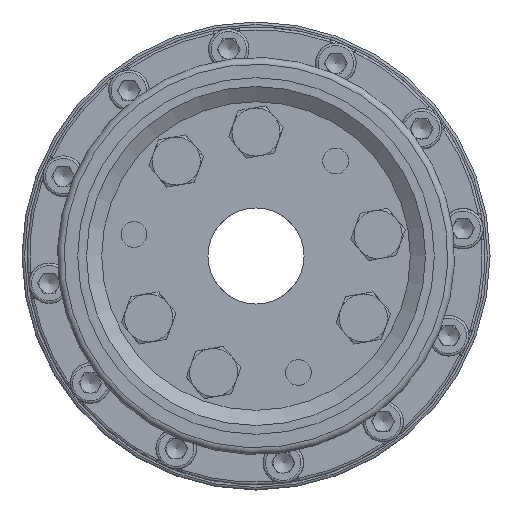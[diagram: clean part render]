
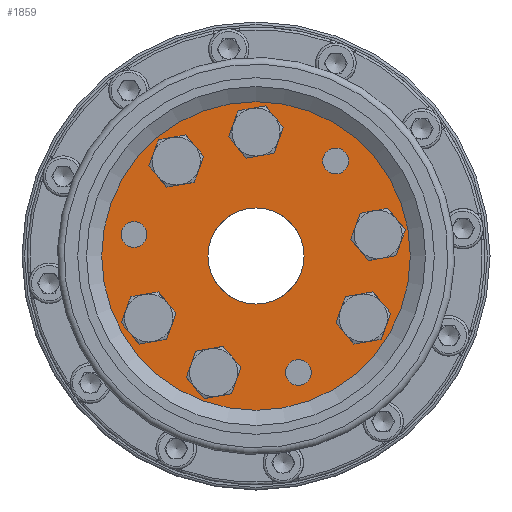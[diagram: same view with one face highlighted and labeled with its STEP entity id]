
A CAD part, left-side view. The second image highlights one B-rep face of the part: STEP entity #1859.
In plain terms, the highlighted planar face has unit normal (-1, 0, 0).
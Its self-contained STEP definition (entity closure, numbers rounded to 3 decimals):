
#1859 = ADVANCED_FACE( '', ( #4296, #4297, #4298, #4299, #4300, #4301, #4302, #4303, #4304, #4305, #4306 ), #4307, .T. );
#4296 = FACE_BOUND( '', #7447, .T. );
#4297 = FACE_BOUND( '', #7448, .T. );
#4298 = FACE_BOUND( '', #7449, .T. );
#4299 = FACE_BOUND( '', #7450, .T. );
#4300 = FACE_BOUND( '', #7451, .T. );
#4301 = FACE_BOUND( '', #7452, .T. );
#4302 = FACE_OUTER_BOUND( '', #7453, .T. );
#4303 = FACE_BOUND( '', #7454, .T. );
#4304 = FACE_BOUND( '', #7455, .T. );
#4305 = FACE_BOUND( '', #7456, .T. );
#4306 = FACE_BOUND( '', #7457, .T. );
#4307 = PLANE( '', #7458 );
#7447 = EDGE_LOOP( '', ( #13031 ) );
#7448 = EDGE_LOOP( '', ( #13032 ) );
#7449 = EDGE_LOOP( '', ( #13033 ) );
#7450 = EDGE_LOOP( '', ( #13034 ) );
#7451 = EDGE_LOOP( '', ( #13035 ) );
#7452 = EDGE_LOOP( '', ( #13036 ) );
#7453 = EDGE_LOOP( '', ( #13037 ) );
#7454 = EDGE_LOOP( '', ( #13038 ) );
#7455 = EDGE_LOOP( '', ( #13039 ) );
#7456 = EDGE_LOOP( '', ( #13040 ) );
#7457 = EDGE_LOOP( '', ( #13041 ) );
#7458 = AXIS2_PLACEMENT_3D( '', #13042, #13043, #13044 );
#13031 = ORIENTED_EDGE( '', *, *, #17742, .T. );
#13032 = ORIENTED_EDGE( '', *, *, #18192, .T. );
#13033 = ORIENTED_EDGE( '', *, *, #18349, .T. );
#13034 = ORIENTED_EDGE( '', *, *, #18070, .T. );
#13035 = ORIENTED_EDGE( '', *, *, #17421, .T. );
#13036 = ORIENTED_EDGE( '', *, *, #17725, .T. );
#13037 = ORIENTED_EDGE( '', *, *, #17625, .T. );
#13038 = ORIENTED_EDGE( '', *, *, #18350, .T. );
#13039 = ORIENTED_EDGE( '', *, *, #18351, .T. );
#13040 = ORIENTED_EDGE( '', *, *, #18352, .T. );
#13041 = ORIENTED_EDGE( '', *, *, #18278, .F. );
#13042 = CARTESIAN_POINT( '', ( -81.093, 12.213, 14.555 ) );
#13043 = DIRECTION( '', ( -1., 0., 0. ) );
#13044 = DIRECTION( '', ( 0., 0.643, 0.766 ) );
#17421 = EDGE_CURVE( '', #21081, #21081, #21082, .F. );
#17625 = EDGE_CURVE( '', #21394, #21394, #21395, .T. );
#17725 = EDGE_CURVE( '', #21539, #21539, #21540, .F. );
#17742 = EDGE_CURVE( '', #21565, #21565, #21566, .F. );
#18070 = EDGE_CURVE( '', #22011, #22011, #22012, .F. );
#18192 = EDGE_CURVE( '', #22179, #22179, #22180, .F. );
#18278 = EDGE_CURVE( '', #22290, #22290, #22291, .T. );
#18349 = EDGE_CURVE( '', #22381, #22381, #22382, .F. );
#18350 = EDGE_CURVE( '', #22383, #22383, #22384, .T. );
#18351 = EDGE_CURVE( '', #22385, #22385, #22386, .T. );
#18352 = EDGE_CURVE( '', #22387, #22387, #22388, .T. );
#21081 = VERTEX_POINT( '', #28735 );
#21082 = CIRCLE( '', #28736, 8.6 );
#21394 = VERTEX_POINT( '', #29473 );
#21395 = CIRCLE( '', #29474, 61. );
#21539 = VERTEX_POINT( '', #29857 );
#21540 = CIRCLE( '', #29858, 8.6 );
#21565 = VERTEX_POINT( '', #29892 );
#21566 = CIRCLE( '', #29893, 8.6 );
#22011 = VERTEX_POINT( '', #30967 );
#22012 = CIRCLE( '', #30968, 8.6 );
#22179 = VERTEX_POINT( '', #31294 );
#22180 = CIRCLE( '', #31295, 8.6 );
#22290 = VERTEX_POINT( '', #31558 );
#22291 = CIRCLE( '', #31559, 19. );
#22381 = VERTEX_POINT( '', #31776 );
#22382 = CIRCLE( '', #31777, 8.6 );
#22383 = VERTEX_POINT( '', #31778 );
#22384 = CIRCLE( '', #31779, 5.1 );
#22385 = VERTEX_POINT( '', #31780 );
#22386 = CIRCLE( '', #31781, 5.1 );
#22387 = VERTEX_POINT( '', #31782 );
#22388 = CIRCLE( '', #31783, 5.1 );
#28735 = CARTESIAN_POINT( '', ( -81.093, -51.035, -24.5 ) );
#28736 = AXIS2_PLACEMENT_3D( '', #35492, #35493, #35494 );
#29473 = CARTESIAN_POINT( '', ( -81.093, 39.21, 46.729 ) );
#29474 = AXIS2_PLACEMENT_3D( '', #35718, #35719, #35720 );
#29857 = CARTESIAN_POINT( '', ( -81.093, -56.856, 8.509 ) );
#29858 = AXIS2_PLACEMENT_3D( '', #35844, #35845, #35846 );
#29892 = CARTESIAN_POINT( '', ( -81.093, 33.835, -24.5 ) );
#29893 = AXIS2_PLACEMENT_3D( '', #35862, #35863, #35864 );
#30967 = CARTESIAN_POINT( '', ( -81.093, -8.6, 49. ) );
#30968 = AXIS2_PLACEMENT_3D( '', #36256, #36257, #36258 );
#31294 = CARTESIAN_POINT( '', ( -81.093, 8.159, -46.045 ) );
#31295 = AXIS2_PLACEMENT_3D( '', #36424, #36425, #36426 );
#31558 = CARTESIAN_POINT( '', ( -81.093, 12.213, 14.555 ) );
#31559 = AXIS2_PLACEMENT_3D( '', #36526, #36527, #36528 );
#31776 = CARTESIAN_POINT( '', ( -81.093, 22.897, 37.536 ) );
#31777 = AXIS2_PLACEMENT_3D( '', #36600, #36601, #36602 );
#31778 = CARTESIAN_POINT( '', ( -81.093, 51.534, 12.416 ) );
#31779 = AXIS2_PLACEMENT_3D( '', #36603, #36604, #36605 );
#31780 = CARTESIAN_POINT( '', ( -81.093, -28.218, 41.443 ) );
#31781 = AXIS2_PLACEMENT_3D( '', #36606, #36607, #36608 );
#31782 = CARTESIAN_POINT( '', ( -81.093, -13.481, -42.138 ) );
#31783 = AXIS2_PLACEMENT_3D( '', #36609, #36610, #36611 );
#35492 = CARTESIAN_POINT( '', ( -81.093, -42.435, -24.5 ) );
#35493 = DIRECTION( '', ( -1., 0., 0. ) );
#35494 = DIRECTION( '', ( 0., -1., 0. ) );
#35718 = CARTESIAN_POINT( '', ( -81.093, 0., 0. ) );
#35719 = DIRECTION( '', ( -1., 0., 0. ) );
#35720 = DIRECTION( '', ( 0., 0.643, 0.766 ) );
#35844 = CARTESIAN_POINT( '', ( -81.093, -48.256, 8.509 ) );
#35845 = DIRECTION( '', ( -1., 0., 0. ) );
#35846 = DIRECTION( '', ( 0., -1., 0. ) );
#35862 = CARTESIAN_POINT( '', ( -81.093, 42.435, -24.5 ) );
#35863 = DIRECTION( '', ( -1., 0., 0. ) );
#35864 = DIRECTION( '', ( 0., -1., 0. ) );
#36256 = CARTESIAN_POINT( '', ( -81.093, 0., 49. ) );
#36257 = DIRECTION( '', ( -1., 0., 0. ) );
#36258 = DIRECTION( '', ( 0., -1., 0. ) );
#36424 = CARTESIAN_POINT( '', ( -81.093, 16.759, -46.045 ) );
#36425 = DIRECTION( '', ( -1., 0., 0. ) );
#36426 = DIRECTION( '', ( 0., -1., 0. ) );
#36526 = CARTESIAN_POINT( '', ( -81.093, 0., 0. ) );
#36527 = DIRECTION( '', ( -1., 0., 0. ) );
#36528 = DIRECTION( '', ( 0., 0.643, 0.766 ) );
#36600 = CARTESIAN_POINT( '', ( -81.093, 31.497, 37.536 ) );
#36601 = DIRECTION( '', ( -1., 0., 0. ) );
#36602 = DIRECTION( '', ( 0., -1., 0. ) );
#36603 = CARTESIAN_POINT( '', ( -81.093, 48.256, 8.509 ) );
#36604 = DIRECTION( '', ( 1., 0., 0. ) );
#36605 = DIRECTION( '', ( 0., 0.643, 0.766 ) );
#36606 = CARTESIAN_POINT( '', ( -81.093, -31.497, 37.536 ) );
#36607 = DIRECTION( '', ( 1., 0., 0. ) );
#36608 = DIRECTION( '', ( 0., 0.643, 0.766 ) );
#36609 = CARTESIAN_POINT( '', ( -81.093, -16.759, -46.045 ) );
#36610 = DIRECTION( '', ( 1., 0., 0. ) );
#36611 = DIRECTION( '', ( 0., 0.643, 0.766 ) );
